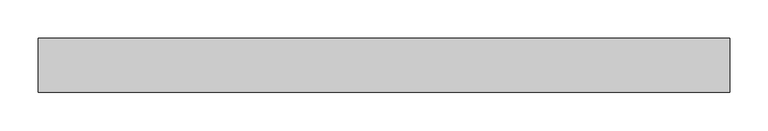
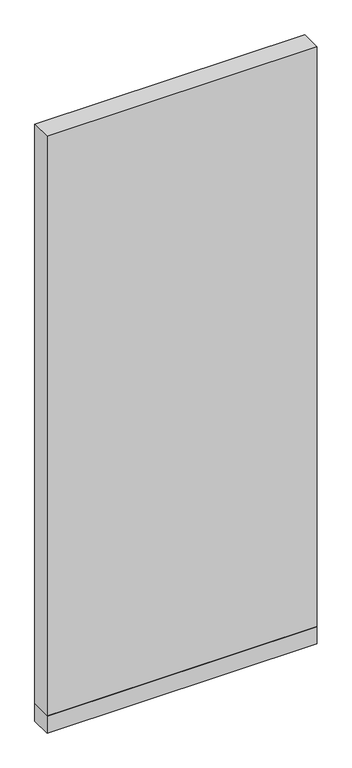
"""IFC4 building model written with IfcOpenShell, lengths in millimetres: plate geometry, 営_パーティションパネル_下部 : パーティションパネル_下部."""

from ifc_helpers import new_model, si_unit, frame, origin, origin_with_axes, place, context, project, spatial, polyline, outline, extrude, source, transform, mapped, element, save


def plate_84f50978(model_context):
    return source(origin(), model_context, "Body", "SweptSolid", [
        extrude(outline(polyline([(-450.0000002, -35.0), (-450.0000002, 35.0), (450.0000002, 35.0), (450.0000002, -35.0), (-450.0000002, -35.0)])), origin_with_axes(), (0.0, 0.0, 1.0), 60.0),
        extrude(outline(polyline([(-450.0000002, -35.0), (-450.0000002, 35.0), (450.0000002, 35.0), (450.0000002, -35.0), (-450.0000002, -35.0)])), frame((0.0, 0.0, 60.0), z_axis=(0.0, 0.0, 1.0), x_axis=(1.0, 0.0, 0.0)), (0.0, 0.0, 1.0), 2040.0),
    ])


if __name__ == "__main__":
    model = new_model("IFC4")
    model_context = context("Model", 3, world=origin())
    ifc_project = project(units=[si_unit("LENGTHUNIT", "METRE", prefix="MILLI")], contexts=[model_context])
    site = spatial("IfcSite", under=ifc_project)
    building = spatial("IfcBuilding", under=site)
    placement = place(None, origin())
    plate_shape = plate_84f50978(model_context)
    element("IfcPlate", 1, ObjectType="営_パーティションパネル_下部 : パーティションパネル_下部", at=placement, inside=building, context=model_context, shape_type="MappedRepresentation", body=[
        mapped(plate_shape, transform((0.0, 0.0, 0.0), x_axis=(1.0, 0.0, 0.0), y_axis=(0.0, 1.0, 0.0), z_axis=(0.0, 0.0, 1.0))),
    ])
    save(model, "model.ifc")
